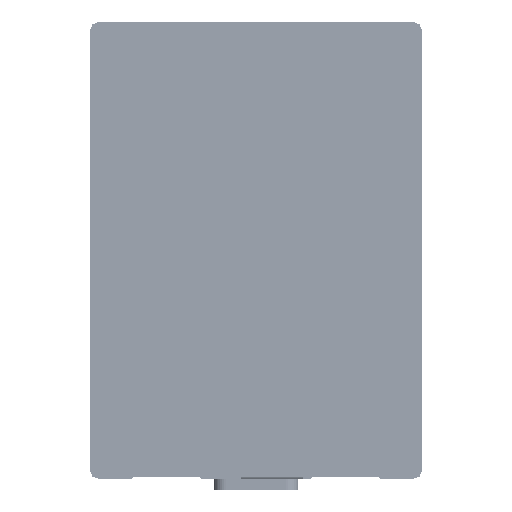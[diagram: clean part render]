
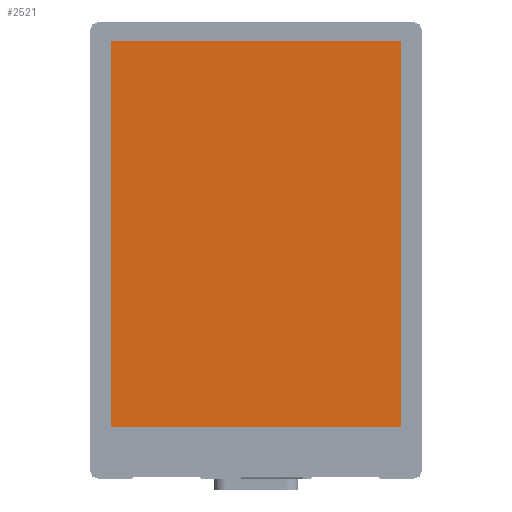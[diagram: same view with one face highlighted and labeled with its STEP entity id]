
A CAD part, top view. The second image highlights one B-rep face of the part: STEP entity #2521.
In plain terms, the highlighted planar face has unit normal (0, 0, 1).
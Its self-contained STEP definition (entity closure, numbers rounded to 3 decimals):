
#1128=DIRECTION('',(1.,0.,0.));
#1129=VECTOR('',#1128,30.6);
#1130=CARTESIAN_POINT('',(-15.3,20.4,2.05));
#1131=LINE('',#1130,#1129);
#1135=DIRECTION('',(0.,1.,0.));
#1136=VECTOR('',#1135,40.8);
#1137=CARTESIAN_POINT('',(15.3,-20.4,2.05));
#1138=LINE('',#1137,#1136);
#1142=DIRECTION('',(1.,0.,0.));
#1143=VECTOR('',#1142,30.6);
#1144=CARTESIAN_POINT('',(-15.3,-20.4,2.05));
#1145=LINE('',#1144,#1143);
#1149=DIRECTION('',(0.,1.,0.));
#1150=VECTOR('',#1149,40.8);
#1151=CARTESIAN_POINT('',(-15.3,-20.4,2.05));
#1152=LINE('',#1151,#1150);
#1237=CARTESIAN_POINT('',(-15.3,20.4,2.05));
#1238=CARTESIAN_POINT('',(15.3,20.4,2.05));
#1239=VERTEX_POINT('',#1237);
#1240=VERTEX_POINT('',#1238);
#1241=CARTESIAN_POINT('',(15.3,-20.4,2.05));
#1242=VERTEX_POINT('',#1241);
#1243=CARTESIAN_POINT('',(-15.3,-20.4,2.05));
#1244=VERTEX_POINT('',#1243);
#2507=CARTESIAN_POINT('',(0.,0.,2.05));
#2508=DIRECTION('',(0.,0.,1.));
#2509=DIRECTION('',(1.,0.,0.));
#2510=AXIS2_PLACEMENT_3D('',#2507,#2508,#2509);
#2511=PLANE('',#2510);
#2512=ORIENTED_EDGE('',*,*,#2497,.T.);
#2514=ORIENTED_EDGE('',*,*,#2513,.F.);
#2516=ORIENTED_EDGE('',*,*,#2515,.F.);
#2518=ORIENTED_EDGE('',*,*,#2517,.T.);
#2519=EDGE_LOOP('',(#2512,#2514,#2516,#2518));
#2520=FACE_OUTER_BOUND('',#2519,.F.);
#2521=ADVANCED_FACE('',(#2520),#2511,.T.);
#2497=EDGE_CURVE('',#1239,#1240,#1131,.T.);
#2513=EDGE_CURVE('',#1242,#1240,#1138,.T.);
#2515=EDGE_CURVE('',#1244,#1242,#1145,.T.);
#2517=EDGE_CURVE('',#1244,#1239,#1152,.T.);
